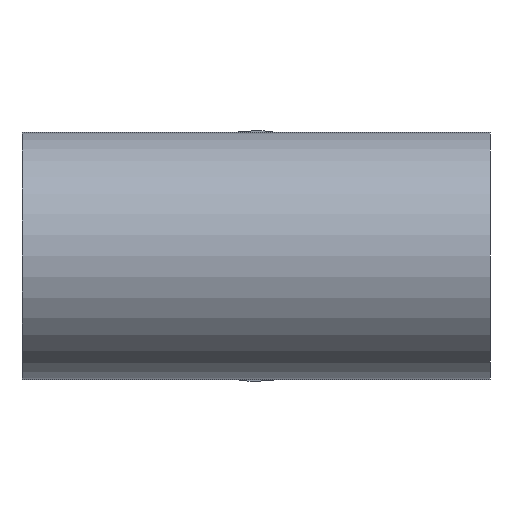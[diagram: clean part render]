
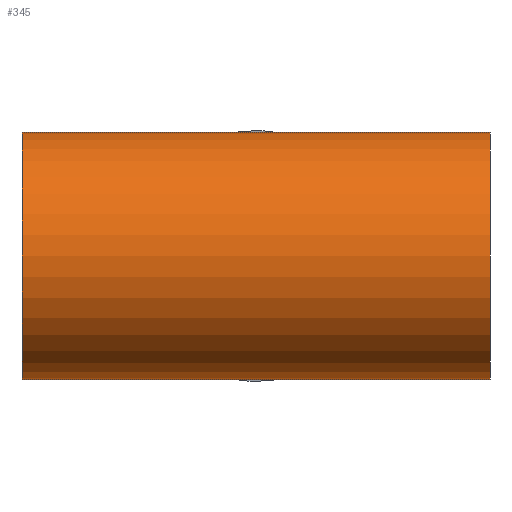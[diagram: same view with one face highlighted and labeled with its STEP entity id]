
A CAD part, left-side view. The second image highlights one B-rep face of the part: STEP entity #345.
In plain terms, the highlighted cylindrical face has radius 37.5 mm (diameter 75 mm), a full revolution.
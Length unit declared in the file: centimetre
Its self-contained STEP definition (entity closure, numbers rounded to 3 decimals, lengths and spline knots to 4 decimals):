
#54=FACE_BOUND('',#132,.T.);
#55=FACE_BOUND('',#133,.T.);
#78=CIRCLE('',#384,3.75);
#79=CIRCLE('',#385,3.75);
#99=FACE_OUTER_BOUND('',#131,.T.);
#131=EDGE_LOOP('',(#274));
#132=EDGE_LOOP('',(#275,#276));
#133=EDGE_LOOP('',(#277));
#151=ELLIPSE('',#357,5.3033,3.75);
#152=ELLIPSE('',#358,5.3033,3.75);
#155=VERTEX_POINT('',#489);
#156=VERTEX_POINT('',#490);
#179=VERTEX_POINT('',#4635);
#180=VERTEX_POINT('',#4637);
#185=EDGE_CURVE('',#155,#156,#151,.T.);
#186=EDGE_CURVE('',#156,#155,#152,.T.);
#216=EDGE_CURVE('',#179,#179,#78,.T.);
#217=EDGE_CURVE('',#180,#180,#79,.T.);
#274=ORIENTED_EDGE('',*,*,#216,.F.);
#275=ORIENTED_EDGE('',*,*,#185,.T.);
#276=ORIENTED_EDGE('',*,*,#186,.T.);
#277=ORIENTED_EDGE('',*,*,#217,.F.);
#301=CYLINDRICAL_SURFACE('',#383,3.75);
#345=ADVANCED_FACE('',(#99,#54,#55),#301,.T.);
#357=AXIS2_PLACEMENT_3D('',#491,#402,#403);
#358=AXIS2_PLACEMENT_3D('',#492,#404,#405);
#383=AXIS2_PLACEMENT_3D('',#4634,#457,#458);
#384=AXIS2_PLACEMENT_3D('',#4636,#459,#460);
#385=AXIS2_PLACEMENT_3D('',#4638,#461,#462);
#402=DIRECTION('center_axis',(-0.707,0.707,0.));
#403=DIRECTION('ref_axis',(0.707,0.707,0.));
#404=DIRECTION('center_axis',(-0.707,-0.707,0.));
#405=DIRECTION('ref_axis',(-0.707,0.707,0.));
#457=DIRECTION('center_axis',(0.,-1.,0.));
#458=DIRECTION('ref_axis',(1.,0.,0.));
#459=DIRECTION('center_axis',(0.,1.,0.));
#460=DIRECTION('ref_axis',(1.,0.,0.));
#461=DIRECTION('center_axis',(0.,-1.,0.));
#462=DIRECTION('ref_axis',(1.,0.,0.));
#489=CARTESIAN_POINT('',(0.,0.,3.75));
#490=CARTESIAN_POINT('',(0.,0.,-3.75));
#491=CARTESIAN_POINT('Origin',(0.,0.,0.));
#492=CARTESIAN_POINT('Origin',(0.,0.,0.));
#4634=CARTESIAN_POINT('Origin',(0.,0.,0.));
#4635=CARTESIAN_POINT('',(-3.75,7.1,0.));
#4636=CARTESIAN_POINT('Origin',(0.,7.1,0.));
#4637=CARTESIAN_POINT('',(-3.75,-7.1,0.));
#4638=CARTESIAN_POINT('Origin',(0.,-7.1,0.));
